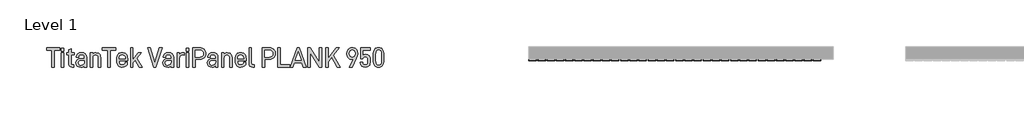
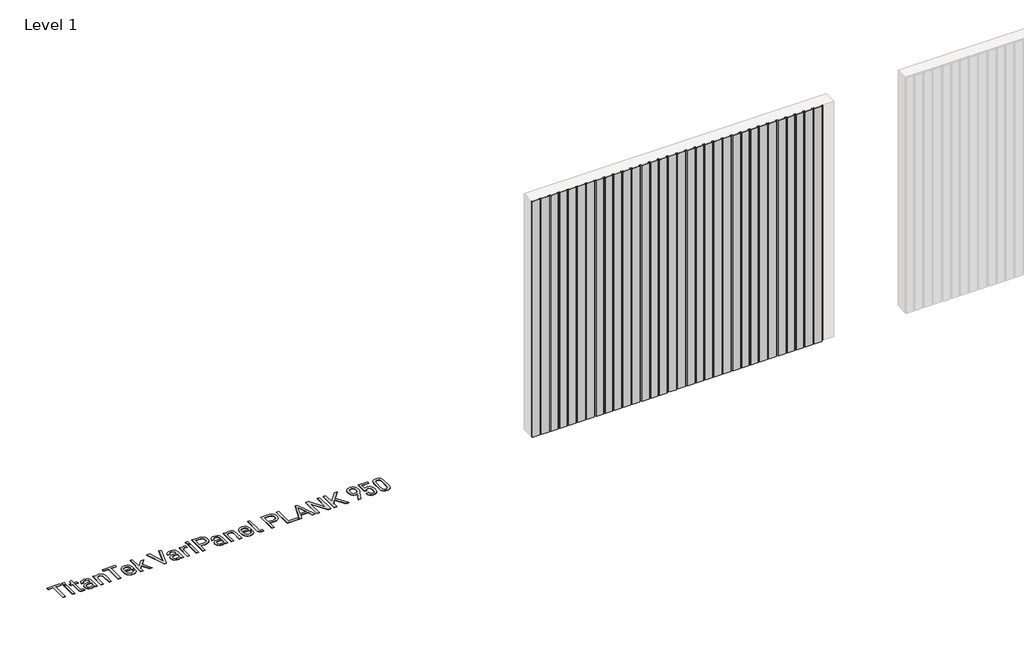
# One storey, part 18 of 33: 2 proxies.
"""IFC4 building model written with IfcOpenShell, lengths in millimetres."""

from ifc_helpers import new_model, si_unit, origin, origin_with_axes, place, context, project, spatial, polyline, outline, extrude, transform, mapped, element, save
from components import aluminum_slate_gray_56dc9e37

model = new_model("IFC4")

# Units and contexts
model_context = context("Model", 3, world=origin())
ifc_project = project(units=[si_unit("LENGTHUNIT", "METRE", prefix="MILLI")], contexts=[model_context])

# Site, building, storey
site = spatial("IfcSite", under=ifc_project)
building = spatial("IfcBuilding", under=site)
storey = spatial("IfcBuildingStorey", under=building, Name="Level 1", Elevation=0.0)

# Proxies
placement = place(None, origin())
element("IfcBuildingElementProxy", 1, Name="600mm Arial 2", ObjectType="600mm Arial 2", at=placement, inside=storey, context=model_context, shape_type="SweptSolid", body=[
    extrude(outline(polyline([(-9914.9924556, 52220.4128343), (-9914.9924556, 51952.9873502), (-9954.4439015, 51952.9873502), (-9954.4439015, 52220.4128343), (-10038.8787304, 52220.4128343), (-10038.8787304, 52257.3166776), (-9830.5576267, 52257.3166776), (-9830.5576267, 52220.4128343), (-9914.9924556, 52220.4128343)])), origin_with_axes(), (0.0, 0.0, 1.0), 5.0),
    extrude(outline(polyline([(-9763.1553408, 52253.0221475), (-9763.1553408, 52205.8551051), (-9802.6067867, 52205.8551051), (-9802.6067867, 52253.0221475), (-9763.1553408, 52253.0221475)])), origin_with_axes(), (0.0, 0.0, 1.0), 5.0),
    extrude(outline(polyline([(-9764.0288046, 52178.8505176), (-9764.0288046, 51952.9873502), (-9801.733323, 51952.9873502), (-9801.733323, 52178.8505176), (-9764.0288046, 52178.8505176)])), origin_with_axes(), (0.0, 0.0, 1.0), 5.0),
    extrude(outline(polyline([(-9648.294858, 52012.601251), (-9646.8208879, 52001.5191797), (-9642.3989777, 51993.6034145), (-9635.0291273, 51988.8539554), (-9624.7113368, 51987.2708023), (-9603.2386864, 51987.2708023), (-9603.2386864, 51952.9873502), (-9629.3698101, 51952.9873502), (-9653.1535001, 51956.9543314), (-9671.3688587, 51968.855275), (-9682.6692959, 51987.3981825), (-9686.4361083, 52011.2910554), (-9686.4361083, 52147.1146681), (-9720.2828285, 52147.1146681), (-9720.2828285, 52178.8505176), (-9686.4361083, 52178.8505176), (-9686.4361083, 52226.8910237), (-9648.294858, 52244.8698192), (-9648.294858, 52178.8505176), (-9599.3808881, 52178.8505176), (-9599.3808881, 52147.1146681), (-9648.294858, 52147.1146681), (-9648.294858, 52012.601251)])), origin_with_axes(), (0.0, 0.0, 1.0), 5.0),
    extrude(outline(polyline([(-9422.8684225, 52162.1091291), (-9413.2830677, 52151.3409589), (-9406.4363858, 52138.2526505), (-9400.9590402, 52105.1156196), (-9400.9590402, 51952.9873502), (-9438.2996154, 51952.9873502), (-9438.2996154, 51969.2920069), (-9456.7151427, 51956.8451485), (-9473.7476858, 51952.0410978), (-9493.9829293, 51950.4397476), (-9526.0281305, 51954.7160806), (-9550.1029751, 51967.5450794), (-9565.2248162, 51989.3270816), (-9570.2654299, 52018.5699199), (-9565.1338304, 52046.2114081), (-9549.7390318, 52067.4111012), (-9525.063681, 52080.6222403), (-9493.1094655, 52085.0259534), (-9438.7363472, 52085.0259534), (-9438.7363472, 52105.5523515), (-9441.6296959, 52124.441005), (-9450.3097419, 52138.1616647), (-9464.2305704, 52146.1866129), (-9483.7197302, 52148.8615956), (-9502.2262434, 52146.6051476), (-9515.819523, 52139.8358036), (-9524.1720201, 52129.4816187), (-9526.9561857, 52115.4516073), (-9526.9561857, 52109.8468816), (-9563.8600291, 52109.8468816), (-9563.8600291, 52116.2522824), (-9558.4008807, 52143.2932642), (-9542.0234354, 52164.2927885), (-9516.8203668, 52177.4493362), (-9484.1564621, 52181.8348521), (-9448.6719974, 52176.9034213), (-9434.5600987, 52170.7391329), (-9422.8684225, 52162.1091291)]), holes=[polyline([(-9450.6736851, 51994.5496669), (-9441.7206817, 52009.4531421), (-9438.7363472, 52031.0167784), (-9438.7363472, 52054.9642428), (-9488.8149354, 52054.9642428), (-9507.9538, 52052.7168933), (-9521.6244175, 52045.974845), (-9529.826788, 52034.7380979), (-9532.5609115, 52019.0066518), (-9529.8540837, 52003.0522906), (-9521.7336004, 51991.6563182), (-9508.1994616, 51984.8187348), (-9489.2516673, 51982.5395404), (-9466.104878, 51985.542072), (-9450.6736851, 51994.5496669)])]), origin_with_axes(), (0.0, 0.0, 1.0), 5.0),
    extrude(outline(polyline([(-9306.6977441, 52178.8505176), (-9306.6977441, 52160.4349903), (-9288.2822167, 52173.6825238), (-9271.1222935, 52179.4692211), (-9252.2518372, 52181.3981202), (-9219.9154813, 52175.9389718), (-9206.7907787, 52169.1150363), (-9195.6950595, 52159.5615265), (-9187.0650557, 52147.9790333), (-9180.9007673, 52134.1946835), (-9175.9693365, 52100.0204144), (-9175.9693365, 51952.9873502), (-9213.673855, 51952.9873502), (-9213.673855, 52095.7258843), (-9216.6763866, 52118.1083928), (-9225.6839815, 52133.8671346), (-9240.3781893, 52143.4752358), (-9259.567096, 52146.6779363), (-9278.7378056, 52143.4752358), (-9293.3774219, 52133.8671346), (-9303.0401146, 52117.453295), (-9306.2610122, 52095.7258843), (-9306.2610122, 51952.9873502), (-9343.9655306, 51952.9873502), (-9343.9655306, 52178.8505176), (-9306.6977441, 52178.8505176)])), origin_with_axes(), (0.0, 0.0, 1.0), 5.0),
    extrude(outline(polyline([(-9025.2240514, 52220.4128343), (-9025.2240514, 51952.9873502), (-9064.6754974, 51952.9873502), (-9064.6754974, 52220.4128343), (-9149.1103263, 52220.4128343), (-9149.1103263, 52257.3166776), (-8940.7892225, 52257.3166776), (-8940.7892225, 52220.4128343), (-9025.2240514, 52220.4128343)])), origin_with_axes(), (0.0, 0.0, 1.0), 5.0),
    extrude(outline(polyline([(-8884.5235994, 52047.2486463), (-8881.1025331, 52017.8329349), (-8870.8393341, 51998.8805913), (-8854.3527058, 51988.5900965), (-8832.2613519, 51985.1599316), (-8812.990558, 51987.7257314), (-8798.8513635, 51995.4231306), (-8790.1713175, 52007.1966941), (-8787.2779689, 52022.86445), (-8787.2779689, 52028.3963871), (-8750.3741256, 52028.3963871), (-8750.3741256, 52021.9909863), (-8756.0516399, 51992.8391337), (-8763.1485329, 51980.528754), (-8773.084183, 51969.7287387), (-8799.7976159, 51955.2619954), (-8834.3722226, 51950.4397476), (-8853.3222916, 51951.9387388), (-8870.2843206, 51956.4357123), (-8885.2583098, 51963.9306682), (-8898.2442591, 51974.4236064), (-8908.7371973, 51988.0237099), (-8916.2321532, 52004.8401617), (-8920.7291267, 52024.8729617), (-8922.2281179, 52048.1221101), (-8922.2281179, 52085.8266285), (-8920.7314014, 52108.5321367), (-8916.2412518, 52128.1714231), (-8908.7576691, 52144.7444879), (-8898.2806535, 52158.2513309), (-8885.4971476, 52168.5691214), (-8870.7301511, 52175.9389718), (-8853.979664, 52180.360882), (-8835.2456864, 52181.8348521), (-8816.8438069, 52180.360882), (-8800.2161506, 52175.9389718), (-8785.3627176, 52168.5691214), (-8772.2835079, 52158.2513309), (-8761.9657174, 52144.9082623), (-8754.595867, 52128.389789), (-8750.1739568, 52108.6959111), (-8748.6999867, 52085.8266285), (-8748.6999867, 52055.8377065), (-8884.5235994, 52055.8377065), (-8884.5235994, 52047.2486463)]), holes=[polyline([(-8871.2760659, 52133.4304027), (-8881.2117161, 52115.30603), (-8884.5235994, 52086.7000923), (-8786.4045051, 52086.2633604), (-8786.4045051, 52089.6844267), (-8789.6254027, 52116.9255774), (-8799.2880954, 52134.3038665), (-8814.9012599, 52143.5844188), (-8835.2456864, 52146.6779363), (-8855.60831, 52143.3660529), (-8871.2760659, 52133.4304027)])]), origin_with_axes(), (0.0, 0.0, 1.0), 5.0),
    extrude(outline(polyline([(-8663.391694, 52020.3168474), (-8663.391694, 51952.9873502), (-8701.0962125, 51952.9873502), (-8701.0962125, 52257.3166776), (-8663.391694, 52257.3166776), (-8663.391694, 52070.8321675), (-8575.0990669, 52178.8505176), (-8528.3687564, 52178.8505176), (-8602.5403863, 52091.8680861), (-8517.6688255, 51952.9873502), (-8563.5256722, 51952.9873502), (-8627.7980463, 52062.6798392), (-8663.391694, 52020.3168474)])), origin_with_axes(), (0.0, 0.0, 1.0), 5.0),
    extrude(outline(polyline([(-8240.5624516, 52257.3166776), (-8199.0001349, 52257.3166776), (-8298.4294248, 51952.9873502), (-8330.1652743, 51952.9873502), (-8429.1578324, 52257.3166776), (-8387.5955157, 52257.3166776), (-8313.8606177, 52022.86445), (-8240.5624516, 52257.3166776)])), origin_with_axes(), (0.0, 0.0, 1.0), 5.0),
    extrude(outline(polyline([(-8039.3018464, 52162.1091291), (-8029.7164916, 52151.3409589), (-8022.8698097, 52138.2526505), (-8017.3924641, 52105.1156196), (-8017.3924641, 51952.9873502), (-8054.7330393, 51952.9873502), (-8054.7330393, 51969.2920069), (-8073.1485666, 51956.8451485), (-8090.1811097, 51952.0410978), (-8110.4163532, 51950.4397476), (-8142.4615544, 51954.7160806), (-8166.536399, 51967.5450794), (-8181.6582401, 51989.3270816), (-8186.6988538, 52018.5699199), (-8181.5672543, 52046.2114081), (-8166.1724557, 52067.4111012), (-8141.4971049, 52080.6222403), (-8109.5428894, 52085.0259534), (-8055.1697712, 52085.0259534), (-8055.1697712, 52105.5523515), (-8058.0631198, 52124.441005), (-8066.7431658, 52138.1616647), (-8080.6639943, 52146.1866129), (-8100.1531542, 52148.8615956), (-8118.6596673, 52146.6051476), (-8132.2529469, 52139.8358036), (-8140.605444, 52129.4816187), (-8143.3896097, 52115.4516073), (-8143.3896097, 52109.8468816), (-8180.293453, 52109.8468816), (-8180.293453, 52116.2522824), (-8174.8343046, 52143.2932642), (-8158.4568593, 52164.2927885), (-8133.2537908, 52177.4493362), (-8100.589886, 52181.8348521), (-8065.1054213, 52176.9034213), (-8050.9935226, 52170.7391329), (-8039.3018464, 52162.1091291)]), holes=[polyline([(-8067.107109, 51994.5496669), (-8058.1541056, 52009.4531421), (-8055.1697712, 52031.0167784), (-8055.1697712, 52054.9642428), (-8105.2483594, 52054.9642428), (-8124.3872239, 52052.7168933), (-8138.0578414, 52045.974845), (-8146.2602119, 52034.7380979), (-8148.9943354, 52019.0066518), (-8146.2875076, 52003.0522906), (-8138.1670243, 51991.6563182), (-8124.6328855, 51984.8187348), (-8105.6850912, 51982.5395404), (-8082.5383019, 51985.542072), (-8067.107109, 51994.5496669)])]), origin_with_axes(), (0.0, 0.0, 1.0), 5.0),
    extrude(outline(polyline([(-7870.4321886, 52181.8348521), (-7850.2697337, 52179.7239814), (-7850.2697337, 52140.7092673), (-7876.8375894, 52146.313993), (-7895.1712295, 52142.7746451), (-7909.8472402, 52132.1566015), (-7919.4826371, 52115.7518604), (-7922.6944361, 52094.8524206), (-7922.6944361, 51952.9873502), (-7960.3989546, 51952.9873502), (-7960.3989546, 52178.8505176), (-7923.131168, 52178.8505176), (-7923.131168, 52159.1247947), (-7905.5891044, 52173.3185806), (-7889.4846166, 52179.7057842), (-7870.4321886, 52181.8348521)])), origin_with_axes(), (0.0, 0.0, 1.0), 5.0),
    extrude(outline(polyline([(-7773.9872331, 52253.0221475), (-7773.9872331, 52205.8551051), (-7813.438679, 52205.8551051), (-7813.438679, 52253.0221475), (-7773.9872331, 52253.0221475)])), origin_with_axes(), (0.0, 0.0, 1.0), 5.0),
    extrude(outline(polyline([(-7774.8606969, 52178.8505176), (-7774.8606969, 51952.9873502), (-7812.5652153, 51952.9873502), (-7812.5652153, 52178.8505176), (-7774.8606969, 52178.8505176)])), origin_with_axes(), (0.0, 0.0, 1.0), 5.0),
    extrude(outline(polyline([(-7529.6357497, 52233.2964245), (-7518.2033831, 52219.8396237), (-7510.0374069, 52203.926206), (-7505.1378212, 52185.5561716), (-7503.504626, 52164.7295204), (-7505.1651169, 52145.044741), (-7510.1465899, 52127.5527196), (-7518.4490448, 52112.2534562), (-7530.0724816, 52099.1469507), (-7544.1297888, 52088.6380899), (-7560.6073184, 52081.1317609), (-7579.5050706, 52076.6279634), (-7600.8230452, 52075.1266976), (-7671.5008201, 52075.1266976), (-7671.5008201, 51952.9873502), (-7711.3889979, 51952.9873502), (-7711.3889979, 52257.3166776), (-7600.8230452, 52257.3166776), (-7579.6415493, 52255.8154118), (-7560.7165014, 52251.3116143), (-7544.0479016, 52243.8052853), (-7529.6357497, 52233.2964245)]), holes=[polyline([(-7558.3872648, 52125.2780744), (-7547.141419, 52141.5827311), (-7543.3928038, 52164.7295204), (-7547.250602, 52189.3502798), (-7558.8239966, 52206.7285689), (-7577.8946218, 52216.9917679), (-7603.3706478, 52220.4128343), (-7671.5008201, 52220.4128343), (-7671.5008201, 52112.0305409), (-7603.3706478, 52112.0305409), (-7577.130341, 52115.3424243), (-7558.3872648, 52125.2780744)])]), origin_with_axes(), (0.0, 0.0, 1.0), 5.0),
    extrude(outline(polyline([(-7331.2139018, 52162.1091291), (-7321.628547, 52151.3409589), (-7314.781865, 52138.2526505), (-7309.3045194, 52105.1156196), (-7309.3045194, 51952.9873502), (-7346.6450946, 51952.9873502), (-7346.6450946, 51969.2920069), (-7365.060622, 51956.8451485), (-7382.093165, 51952.0410978), (-7402.3284085, 51950.4397476), (-7434.3736098, 51954.7160806), (-7458.4484543, 51967.5450794), (-7473.5702954, 51989.3270816), (-7478.6109091, 52018.5699199), (-7473.4793096, 52046.2114081), (-7458.0845111, 52067.4111012), (-7433.4091602, 52080.6222403), (-7401.4549448, 52085.0259534), (-7347.0818265, 52085.0259534), (-7347.0818265, 52105.5523515), (-7349.9751752, 52124.441005), (-7358.6552212, 52138.1616647), (-7372.5760496, 52146.1866129), (-7392.0652095, 52148.8615956), (-7410.5717226, 52146.6051476), (-7424.1650022, 52139.8358036), (-7432.5174993, 52129.4816187), (-7435.301665, 52115.4516073), (-7435.301665, 52109.8468816), (-7472.2055083, 52109.8468816), (-7472.2055083, 52116.2522824), (-7466.7463599, 52143.2932642), (-7450.3689146, 52164.2927885), (-7425.1658461, 52177.4493362), (-7392.5019414, 52181.8348521), (-7357.0174766, 52176.9034213), (-7342.905578, 52170.7391329), (-7331.2139018, 52162.1091291)]), holes=[polyline([(-7359.0191644, 51994.5496669), (-7350.066161, 52009.4531421), (-7347.0818265, 52031.0167784), (-7347.0818265, 52054.9642428), (-7397.1604147, 52054.9642428), (-7416.2992792, 52052.7168933), (-7429.9698967, 52045.974845), (-7438.1722672, 52034.7380979), (-7440.9063907, 52019.0066518), (-7438.199563, 52003.0522906), (-7430.0790797, 51991.6563182), (-7416.5449409, 51984.8187348), (-7397.5971466, 51982.5395404), (-7374.4503573, 51985.542072), (-7359.0191644, 51994.5496669)])]), origin_with_axes(), (0.0, 0.0, 1.0), 5.0),
    extrude(outline(polyline([(-7215.0432233, 52178.8505176), (-7215.0432233, 52160.4349903), (-7196.627696, 52173.6825238), (-7179.4677728, 52179.4692211), (-7160.5973164, 52181.3981202), (-7128.2609606, 52175.9389718), (-7115.1362579, 52169.1150363), (-7104.0405387, 52159.5615265), (-7095.410535, 52147.9790333), (-7089.2462465, 52134.1946835), (-7084.3148158, 52100.0204144), (-7084.3148158, 51952.9873502), (-7122.0193342, 51952.9873502), (-7122.0193342, 52095.7258843), (-7125.0218659, 52118.1083928), (-7134.0294607, 52133.8671346), (-7148.7236686, 52143.4752358), (-7167.9125753, 52146.6779363), (-7187.0832848, 52143.4752358), (-7201.7229012, 52133.8671346), (-7211.3855939, 52117.453295), (-7214.6064915, 52095.7258843), (-7214.6064915, 51952.9873502), (-7252.3110099, 51952.9873502), (-7252.3110099, 52178.8505176), (-7215.0432233, 52178.8505176)])), origin_with_axes(), (0.0, 0.0, 1.0), 5.0),
    extrude(outline(polyline([(-6997.8419048, 52047.2486463), (-6994.4208384, 52017.8329349), (-6984.1576394, 51998.8805913), (-6967.6710112, 51988.5900965), (-6945.5796572, 51985.1599316), (-6926.3088633, 51987.7257314), (-6912.1696689, 51995.4231306), (-6903.4896229, 52007.1966941), (-6900.5962742, 52022.86445), (-6900.5962742, 52028.3963871), (-6863.6924309, 52028.3963871), (-6863.6924309, 52021.9909863), (-6869.3699452, 51992.8391337), (-6876.4668382, 51980.528754), (-6886.4024883, 51969.7287387), (-6913.1159213, 51955.2619954), (-6947.6905279, 51950.4397476), (-6966.6405969, 51951.9387388), (-6983.602626, 51956.4357123), (-6998.5766152, 51963.9306682), (-7011.5625645, 51974.4236064), (-7022.0555027, 51988.0237099), (-7029.5504585, 52004.8401617), (-7034.047432, 52024.8729617), (-7035.5464232, 52048.1221101), (-7035.5464232, 52085.8266285), (-7034.0497067, 52108.5321367), (-7029.5595571, 52128.1714231), (-7022.0759745, 52144.7444879), (-7011.5989588, 52158.2513309), (-6998.8154529, 52168.5691214), (-6984.0484564, 52175.9389718), (-6967.2979694, 52180.360882), (-6948.5639917, 52181.8348521), (-6930.1621122, 52180.360882), (-6913.534456, 52175.9389718), (-6898.681023, 52168.5691214), (-6885.6018132, 52158.2513309), (-6875.2840227, 52144.9082623), (-6867.9141723, 52128.389789), (-6863.4922621, 52108.6959111), (-6862.018292, 52085.8266285), (-6862.018292, 52055.8377065), (-6997.8419048, 52055.8377065), (-6997.8419048, 52047.2486463)]), holes=[polyline([(-6984.5943713, 52133.4304027), (-6994.5300214, 52115.30603), (-6997.8419048, 52086.7000923), (-6899.7228105, 52086.2633604), (-6899.7228105, 52089.6844267), (-6902.943708, 52116.9255774), (-6912.6064007, 52134.3038665), (-6928.2195652, 52143.5844188), (-6948.5639917, 52146.6779363), (-6968.9266153, 52143.3660529), (-6984.5943713, 52133.4304027)])]), origin_with_axes(), (0.0, 0.0, 1.0), 5.0),
    extrude(outline(polyline([(-6799.4200568, 51968.855275), (-6810.6659025, 51988.362632), (-6814.4145178, 52014.2753899), (-6814.4145178, 52257.3166776), (-6776.7099994, 52257.3166776), (-6776.7099994, 52016.0223174), (-6775.3270151, 52002.6110094), (-6771.1780623, 51994.112935), (-6764.1903523, 51989.6364333), (-6753.5632101, 51988.1442661), (-6731.7266164, 51988.1442661), (-6731.7266164, 51952.9873502), (-6756.5475445, 51952.9873502), (-6781.4230642, 51956.9543314), (-6799.4200568, 51968.855275)])), origin_with_axes(), (0.0, 0.0, 1.0), 5.0),
    extrude(outline(polyline([(-6420.9190995, 52233.2964245), (-6409.4867329, 52219.8396237), (-6401.3207567, 52203.926206), (-6396.421171, 52185.5561716), (-6394.7879758, 52164.7295204), (-6396.4484667, 52145.044741), (-6401.4299397, 52127.5527196), (-6409.7323946, 52112.2534562), (-6421.3558314, 52099.1469507), (-6435.4131386, 52088.6380899), (-6451.8906682, 52081.1317609), (-6470.7884204, 52076.6279634), (-6492.106395, 52075.1266976), (-6562.7841699, 52075.1266976), (-6562.7841699, 51952.9873502), (-6602.6723477, 51952.9873502), (-6602.6723477, 52257.3166776), (-6492.106395, 52257.3166776), (-6470.9248991, 52255.8154118), (-6451.9998512, 52251.3116143), (-6435.3312514, 52243.8052853), (-6420.9190995, 52233.2964245)]), holes=[polyline([(-6449.6706146, 52125.2780744), (-6438.4247688, 52141.5827311), (-6434.6761536, 52164.7295204), (-6438.5339518, 52189.3502798), (-6450.1073464, 52206.7285689), (-6469.1779716, 52216.9917679), (-6494.6539976, 52220.4128343), (-6562.7841699, 52220.4128343), (-6562.7841699, 52112.0305409), (-6494.6539976, 52112.0305409), (-6468.4136908, 52115.3424243), (-6449.6706146, 52125.2780744)])]), origin_with_axes(), (0.0, 0.0, 1.0), 5.0),
    extrude(outline(polyline([(-6315.8850839, 52257.3166776), (-6315.8850839, 51989.8184049), (-6168.4880765, 51989.8184049), (-6168.4880765, 51952.9873502), (-6355.7732617, 51952.9873502), (-6355.7732617, 52257.3166776), (-6315.8850839, 52257.3166776)])), origin_with_axes(), (0.0, 0.0, 1.0), 5.0),
    extrude(outline(polyline([(-6093.6613488, 52024.1746457), (-6118.482277, 51952.9873502), (-6160.4813255, 51952.9873502), (-6049.9153728, 52257.3166776), (-6017.81558, 52257.3166776), (-5907.1768387, 51952.9873502), (-5949.1758872, 51952.9873502), (-5974.069604, 52024.1746457), (-6093.6613488, 52024.1746457)]), holes=[polyline([(-6034.047448, 52196.4653699), (-6081.6512223, 52059.2587729), (-5986.0797306, 52059.2587729), (-6034.047448, 52196.4653699)])]), origin_with_axes(), (0.0, 0.0, 1.0), 5.0),
    extrude(outline(polyline([(-5696.3081323, 52257.3166776), (-5656.4199545, 52257.3166776), (-5656.4199545, 51952.9873502), (-5694.1972616, 51952.9873502), (-5840.7208052, 52181.3981202), (-5840.7208052, 51952.9873502), (-5880.608983, 51952.9873502), (-5880.608983, 52257.3166776), (-5842.9044646, 52257.3166776), (-5696.3081323, 52029.7065827), (-5696.3081323, 52257.3166776)])), origin_with_axes(), (0.0, 0.0, 1.0), 5.0),
    extrude(outline(polyline([(-5556.5539327, 52036.9854473), (-5556.5539327, 51952.9873502), (-5596.4421105, 51952.9873502), (-5596.4421105, 52257.3166776), (-5556.5539327, 52257.3166776), (-5556.5539327, 52093.1054931), (-5426.262257, 52257.3166776), (-5377.8578077, 52257.3166776), (-5475.1762269, 52137.288201), (-5365.8476812, 51952.9873502), (-5412.5779917, 51952.9873502), (-5500.8706188, 52105.5523515), (-5556.5539327, 52036.9854473)])), origin_with_axes(), (0.0, 0.0, 1.0), 5.0),
    extrude(outline(polyline([(-5109.4860713, 52237.5909546), (-5099.3593509, 52224.9439275), (-5092.1259793, 52210.1496352), (-5087.7859563, 52193.208078), (-5086.339282, 52174.1192557), (-5086.339282, 52159.5615265), (-5091.0705439, 52127.825677), (-5104.3180774, 52094.8524206), (-5174.1951772, 51952.9873502), (-5216.1942258, 51952.9873502), (-5155.342918, 52077.7470888), (-5158.7639844, 52076.4368932), (-5178.0529754, 52073.8892906), (-5194.607843, 52075.3587114), (-5209.5522618, 52079.7669738), (-5222.8862319, 52087.1140777), (-5234.6097531, 52097.4000232), (-5243.9721926, 52110.0743461), (-5250.6596495, 52124.5137937), (-5256.0096149, 52158.6880628), (-5256.0096149, 52173.3185806), (-5253.2254492, 52198.9947753), (-5244.8729521, 52220.4128343), (-5231.4798413, 52238.1004752), (-5214.4472983, 52250.8384881), (-5194.2120548, 52258.8634363), (-5171.2108428, 52261.5384191), (-5152.8863012, 52260.0417025), (-5136.4906588, 52255.551553), (-5122.0239155, 52248.0679703), (-5109.4860713, 52237.5909546)]), holes=[polyline([(-5126.591403, 52159.9982584), (-5126.591403, 52174.5559875), (-5129.5939346, 52195.8830607), (-5138.6015295, 52211.8237741), (-5152.5314566, 52221.8140157), (-5171.1744484, 52225.1440962), (-5189.9266233, 52221.8140157), (-5204.1840992, 52211.8237741), (-5213.1916941, 52195.5555118), (-5216.1942258, 52174.9927194), (-5216.1942258, 52160.4349903), (-5213.1916941, 52139.3080859), (-5204.1840992, 52123.9678788), (-5189.9266233, 52114.0322287), (-5171.1744484, 52110.7203453), (-5152.5314566, 52113.9412429), (-5138.6015295, 52123.6039356), (-5129.5939346, 52139.326283), (-5126.591403, 52159.9982584)])]), origin_with_axes(), (0.0, 0.0, 1.0), 5.0),
    extrude(outline(polyline([(-5021.9941192, 51968.4185431), (-5031.3565588, 51978.9728967), (-5038.0440156, 51991.3469665), (-5043.393981, 52021.5542544), (-5043.393981, 52031.4535102), (-5004.8159989, 52031.4535102), (-5004.8159989, 52024.1746457), (-5002.2501991, 52007.7426089), (-4994.5527998, 51995.4231306), (-4981.7056039, 51988.0532803), (-4964.5638778, 51985.5966635), (-4946.7625047, 51988.8084625), (-4934.0472381, 51998.4438594), (-4926.4180782, 52014.5028544), (-4923.8750249, 52036.9854473), (-4923.8750249, 52064.8634986), (-4926.3316417, 52088.2286538), (-4933.7014921, 52104.3149445), (-4946.0027732, 52113.5954968), (-4964.1271459, 52116.6890143), (-4977.5202567, 52114.8692981), (-4988.5841309, 52109.4101497), (-4997.7918945, 52099.8748371), (-5004.0153238, 52086.7000923), (-5038.7355077, 52086.7000923), (-5038.7355077, 52257.3166776), (-4888.7181091, 52257.3166776), (-4888.7181091, 52219.9761024), (-5001.3949325, 52219.9761024), (-5001.3949325, 52139.8358036), (-4987.7106671, 52147.9881319), (-4959.8326159, 52153.5928576), (-4942.1313271, 52152.1461833), (-4926.7319793, 52147.8061603), (-4913.6345723, 52140.5727886), (-4902.8391063, 52130.4460683), (-4888.6999119, 52103.1139318), (-4883.9868471, 52066.5376374), (-4883.9868471, 52034.4378447), (-4889.3459111, 51998.5166481), (-4896.0447412, 51983.8588346), (-4905.4231032, 51971.4028776), (-4917.130702, 51961.4672275), (-4930.817242, 51954.3703345), (-4964.1271459, 51948.6928201), (-4997.0094166, 51953.6242509), (-5021.9941192, 51968.4185431)])), origin_with_axes(), (0.0, 0.0, 1.0), 5.0),
    extrude(outline(polyline([(-4833.7626816, 52164.2927885), (-4828.676575, 52206.8377519), (-4822.3189417, 52223.5518446), (-4813.4182552, 52237.2270114), (-4801.9745153, 52247.8632523), (-4787.9877221, 52255.4605671), (-4771.4578756, 52260.0189561), (-4752.3849758, 52261.5384191), (-4733.1926571, 52260.0189561), (-4716.5593143, 52255.4605671), (-4702.4849473, 52247.8632523), (-4690.9695561, 52237.2270114), (-4682.0131407, 52223.5518446), (-4675.6157011, 52206.8377519), (-4670.4977495, 52164.2927885), (-4670.4977495, 52047.6853782), (-4675.6157011, 52004.3761341), (-4682.0131407, 51987.3617881), (-4690.9695561, 51973.4409597), (-4702.4849473, 51962.6136486), (-4716.5593143, 51954.879855), (-4733.1926571, 51950.2395789), (-4752.3849758, 51948.6928201), (-4771.4578756, 51950.2395789), (-4787.9877221, 51954.879855), (-4801.9745153, 51962.6136486), (-4813.4182552, 51973.4409597), (-4822.3189417, 51987.3617881), (-4828.676575, 52004.3761341), (-4833.7626816, 52047.6853782), (-4833.7626816, 52164.2927885)]), holes=[polyline([(-4720.2123944, 52000.1543926), (-4712.8425441, 52021.4814658), (-4710.3859273, 52053.7268358), (-4710.3859273, 52156.5771921), (-4712.8425441, 52188.8225621), (-4720.2123944, 52210.1496352), (-4732.9413089, 52221.0679321), (-4752.3485815, 52224.7073644), (-4771.6466712, 52221.0679321), (-4784.0480367, 52210.1496352), (-4791.4724785, 52188.8225621), (-4793.9472925, 52156.5771921), (-4793.9472925, 52053.7268358), (-4791.4724785, 52021.4814658), (-4784.0480367, 52000.1543926), (-4771.6466712, 51989.2360958), (-4752.3485815, 51985.5966635), (-4732.9413089, 51989.2360958), (-4720.2123944, 52000.1543926)])]), origin_with_axes(), (0.0, 0.0, 1.0), 5.0),
])
aluminum_slate_gray_shape = aluminum_slate_gray_56dc9e37(model_context)
element("IfcBuildingElementProxy", 2, Name="TitanTek VariPanel PLANK 950 : Aluminum Slate Gray", ObjectType="TitanTek VariPanel PLANK 950 : Aluminum Slate Gray", at=placement, inside=storey, context=model_context, shape_type="MappedRepresentation", body=[
    mapped(aluminum_slate_gray_shape, transform((-2360.5897817, 52078.6095025, 0.0), x_axis=(1.0, 0.0, 0.0), y_axis=(0.0, 1.0, 0.0), z_axis=(0.0, 0.0, 1.0))),
])

save(model, "model.ifc")
